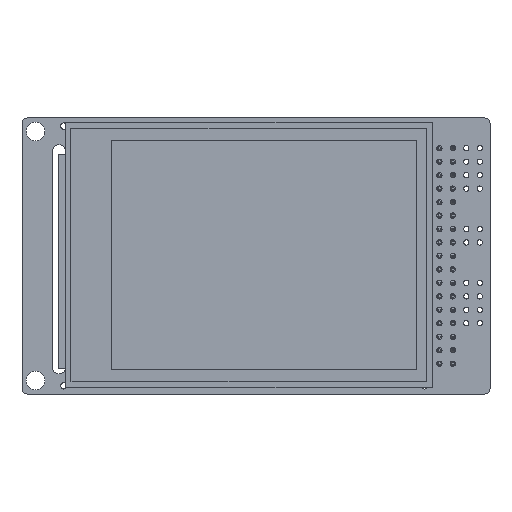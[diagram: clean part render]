
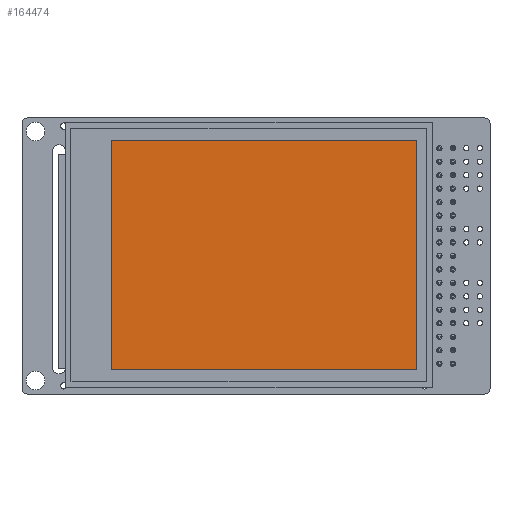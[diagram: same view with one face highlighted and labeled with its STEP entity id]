
A CAD part, top view. The second image highlights one B-rep face of the part: STEP entity #164474.
In plain terms, the highlighted planar face has unit normal (0, 0, 1).
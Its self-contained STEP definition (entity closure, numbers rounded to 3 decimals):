
#164345 = VERTEX_POINT('',#164346);
#164346 = CARTESIAN_POINT('',(28.8,-21.6,3.62));
#164352 = EDGE_CURVE('',#164345,#164353,#164355,.T.);
#164353 = VERTEX_POINT('',#164354);
#164354 = CARTESIAN_POINT('',(28.8,21.6,3.62));
#164355 = LINE('',#164356,#164357);
#164356 = CARTESIAN_POINT('',(28.8,-21.6,3.62));
#164357 = VECTOR('',#164358,1.);
#164358 = DIRECTION('',(0.,1.,0.));
#164383 = EDGE_CURVE('',#164353,#164384,#164386,.T.);
#164384 = VERTEX_POINT('',#164385);
#164385 = CARTESIAN_POINT('',(-28.8,21.6,3.62));
#164386 = LINE('',#164387,#164388);
#164387 = CARTESIAN_POINT('',(28.8,21.6,3.62));
#164388 = VECTOR('',#164389,1.);
#164389 = DIRECTION('',(-1.,0.,0.));
#164414 = EDGE_CURVE('',#164384,#164415,#164417,.T.);
#164415 = VERTEX_POINT('',#164416);
#164416 = CARTESIAN_POINT('',(-28.8,-21.6,3.62));
#164417 = LINE('',#164418,#164419);
#164418 = CARTESIAN_POINT('',(-28.8,21.6,3.62));
#164419 = VECTOR('',#164420,1.);
#164420 = DIRECTION('',(0.,-1.,0.));
#164445 = EDGE_CURVE('',#164415,#164345,#164446,.T.);
#164446 = LINE('',#164447,#164448);
#164447 = CARTESIAN_POINT('',(-28.8,-21.6,3.62));
#164448 = VECTOR('',#164449,1.);
#164449 = DIRECTION('',(1.,0.,0.));
#164474 = ADVANCED_FACE('',(#164475),#164481,.T.);
#164475 = FACE_BOUND('',#164476,.T.);
#164476 = EDGE_LOOP('',(#164477,#164478,#164479,#164480));
#164477 = ORIENTED_EDGE('',*,*,#164352,.T.);
#164478 = ORIENTED_EDGE('',*,*,#164383,.T.);
#164479 = ORIENTED_EDGE('',*,*,#164414,.T.);
#164480 = ORIENTED_EDGE('',*,*,#164445,.T.);
#164481 = PLANE('',#164482);
#164482 = AXIS2_PLACEMENT_3D('',#164483,#164484,#164485);
#164483 = CARTESIAN_POINT('',(0.,0.,3.62));
#164484 = DIRECTION('',(0.,0.,1.));
#164485 = DIRECTION('',(1.,0.,-0.));
